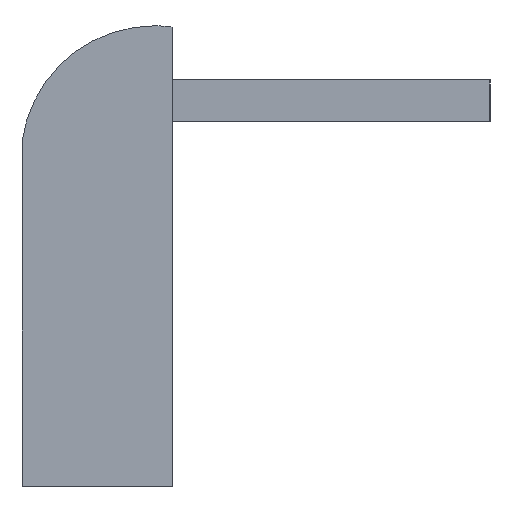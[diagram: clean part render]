
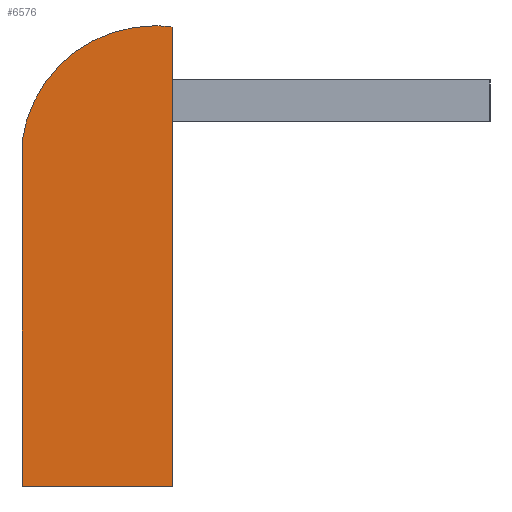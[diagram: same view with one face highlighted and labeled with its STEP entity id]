
A CAD part, left-side view. The second image highlights one B-rep face of the part: STEP entity #6576.
In plain terms, the highlighted planar face has unit normal (-1, 0, 0).
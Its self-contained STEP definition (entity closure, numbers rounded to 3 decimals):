
#28 = CARTESIAN_POINT ( 'NONE',  ( 0., 0.6, -4.5 ) ) ;
#164 = EDGE_CURVE ( 'NONE', #1217, #3222, #3089, .T. ) ;
#179 = VECTOR ( 'NONE', #2863, 1000. ) ;
#345 = LINE ( 'NONE', #2217, #1707 ) ;
#387 = CARTESIAN_POINT ( 'NONE',  ( 0., 0., -15.6 ) ) ;
#436 = EDGE_CURVE ( 'NONE', #5003, #1217, #475, .T. ) ;
#450 = DIRECTION ( 'NONE',  ( 0., 0., 1. ) ) ;
#475 = LINE ( 'NONE', #387, #179 ) ;
#886 = CARTESIAN_POINT ( 'NONE',  ( 0., 5.1, -15.6 ) ) ;
#1039 = ORIENTED_EDGE ( 'NONE', *, *, #164, .F. ) ;
#1217 = VERTEX_POINT ( 'NONE', #886 ) ;
#1397 = DIRECTION ( 'NONE',  ( 0., 0., -1. ) ) ;
#1425 = ORIENTED_EDGE ( 'NONE', *, *, #436, .F. ) ;
#1437 = ORIENTED_EDGE ( 'NONE', *, *, #6248, .F. ) ;
#1483 = CARTESIAN_POINT ( 'NONE',  ( 0., 0., -15.6 ) ) ;
#1701 = AXIS2_PLACEMENT_3D ( 'NONE', #28, #5659, #7409 ) ;
#1707 = VECTOR ( 'NONE', #2776, 1000. ) ;
#1741 = CARTESIAN_POINT ( 'NONE',  ( 0., 0.6, -4.5 ) ) ;
#1771 = DIRECTION ( 'NONE',  ( 1., 0., 0. ) ) ;
#2034 = DIRECTION ( 'NONE',  ( 1., 0., 0. ) ) ;
#2217 = CARTESIAN_POINT ( 'NONE',  ( 0., 0., -15.6 ) ) ;
#2262 = EDGE_LOOP ( 'NONE', ( #1425, #5224, #1437, #7744, #1039 ) ) ;
#2776 = DIRECTION ( 'NONE',  ( 0., 0., -1. ) ) ;
#2863 = DIRECTION ( 'NONE',  ( 0., 1., 0. ) ) ;
#3089 = LINE ( 'NONE', #5979, #4522 ) ;
#3178 = CARTESIAN_POINT ( 'NONE',  ( 0., 0.6, -4.5 ) ) ;
#3222 = VERTEX_POINT ( 'NONE', #7734 ) ;
#3496 = VERTEX_POINT ( 'NONE', #6485 ) ;
#4437 = FACE_OUTER_BOUND ( 'NONE', #2262, .T. ) ;
#4522 = VECTOR ( 'NONE', #450, 1000. ) ;
#4750 = DIRECTION ( 'NONE',  ( 0., 0., -1. ) ) ;
#5003 = VERTEX_POINT ( 'NONE', #1483 ) ;
#5158 = AXIS2_PLACEMENT_3D ( 'NONE', #3178, #2034, #1397 ) ;
#5224 = ORIENTED_EDGE ( 'NONE', *, *, #7599, .F. ) ;
#5370 = EDGE_CURVE ( 'NONE', #3222, #6738, #7387, .T. ) ;
#5659 = DIRECTION ( 'NONE',  ( 1., 0., 0. ) ) ;
#5894 = AXIS2_PLACEMENT_3D ( 'NONE', #1741, #1771, #4750 ) ;
#5979 = CARTESIAN_POINT ( 'NONE',  ( 0., 5.1, -15.6 ) ) ;
#6248 = EDGE_CURVE ( 'NONE', #6738, #3496, #6785, .T. ) ;
#6450 = CARTESIAN_POINT ( 'NONE',  ( 0., 0.6, 0.04 ) ) ;
#6485 = CARTESIAN_POINT ( 'NONE',  ( 0., 0., 0. ) ) ;
#6576 = ADVANCED_FACE ( 'NONE', ( #4437 ), #6912, .F. ) ;
#6738 = VERTEX_POINT ( 'NONE', #6450 ) ;
#6785 = CIRCLE ( 'NONE', #5894, 4.54 ) ;
#6912 = PLANE ( 'NONE',  #5158 ) ;
#7387 = CIRCLE ( 'NONE', #1701, 4.54 ) ;
#7409 = DIRECTION ( 'NONE',  ( 0., 0., -1. ) ) ;
#7599 = EDGE_CURVE ( 'NONE', #3496, #5003, #345, .T. ) ;
#7734 = CARTESIAN_POINT ( 'NONE',  ( 0., 5.1, -3.9 ) ) ;
#7744 = ORIENTED_EDGE ( 'NONE', *, *, #5370, .F. ) ;
